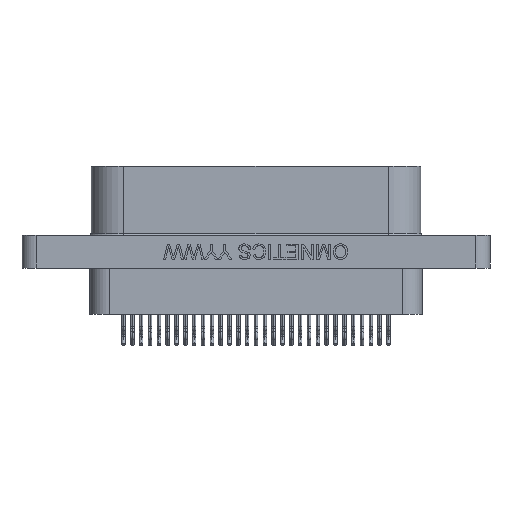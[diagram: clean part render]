
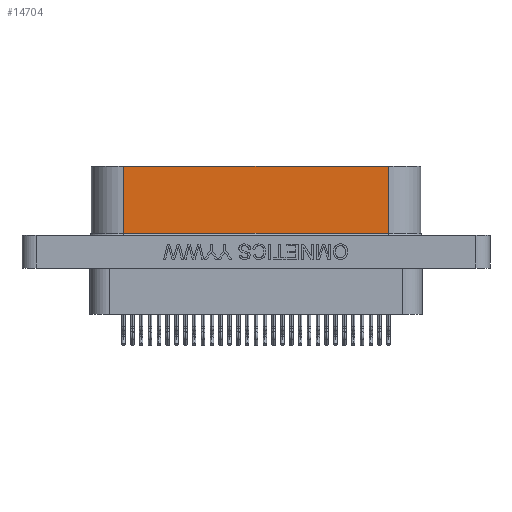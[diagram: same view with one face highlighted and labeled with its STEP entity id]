
A CAD part, front view. The second image highlights one B-rep face of the part: STEP entity #14704.
In plain terms, the highlighted planar face has unit normal (0, -1, 0).
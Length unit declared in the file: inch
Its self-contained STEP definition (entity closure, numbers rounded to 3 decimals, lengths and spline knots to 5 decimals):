
#5238 = CARTESIAN_POINT ( 'NONE',  ( 0.375, -0.1176, 0.235 ) ) ;
#5401 = ORIENTED_EDGE ( 'NONE', *, *, #11649, .T. ) ;
#5422 = DIRECTION ( 'NONE',  ( 0., 0., -1. ) ) ;
#7192 = LINE ( 'NONE', #37873, #26937 ) ;
#8122 = EDGE_CURVE ( 'NONE', #33470, #41523, #7192, .T. ) ;
#8419 = LINE ( 'NONE', #37025, #41875 ) ;
#9506 = CARTESIAN_POINT ( 'NONE',  ( -0.375, -0.1176, 0.045 ) ) ;
#11098 = DIRECTION ( 'NONE',  ( 1., 0., 0. ) ) ;
#11396 = CARTESIAN_POINT ( 'NONE',  ( 0.375, -0.1176, 0.045 ) ) ;
#11649 = EDGE_CURVE ( 'NONE', #24199, #30039, #22268, .T. ) ;
#14270 = ORIENTED_EDGE ( 'NONE', *, *, #19297, .F. ) ;
#14704 = ADVANCED_FACE ( 'NONE', ( #37621 ), #31175, .F. ) ;
#15103 = AXIS2_PLACEMENT_3D ( 'NONE', #29853, #29673, #29622 ) ;
#19297 = EDGE_CURVE ( 'NONE', #41523, #30039, #30254, .T. ) ;
#22172 = VECTOR ( 'NONE', #5422, 39.37008 ) ;
#22268 = LINE ( 'NONE', #11396, #30482 ) ;
#23832 = ORIENTED_EDGE ( 'NONE', *, *, #28333, .T. ) ;
#24199 = VERTEX_POINT ( 'NONE', #9506 ) ;
#24422 = CARTESIAN_POINT ( 'NONE',  ( 0.375, -0.1176, 0.235 ) ) ;
#24637 = EDGE_LOOP ( 'NONE', ( #23832, #5401, #14270, #24861 ) ) ;
#24861 = ORIENTED_EDGE ( 'NONE', *, *, #8122, .F. ) ;
#25139 = DIRECTION ( 'NONE',  ( 0., 0., -1. ) ) ;
#26937 = VECTOR ( 'NONE', #37554, 39.37008 ) ;
#27368 = CARTESIAN_POINT ( 'NONE',  ( -0.375, -0.1176, 0.235 ) ) ;
#28333 = EDGE_CURVE ( 'NONE', #33470, #24199, #8419, .T. ) ;
#29622 = DIRECTION ( 'NONE',  ( 0., 0., 1. ) ) ;
#29673 = DIRECTION ( 'NONE',  ( 0., 1., 0. ) ) ;
#29853 = CARTESIAN_POINT ( 'NONE',  ( -0.6225, -0.1176, 0.235 ) ) ;
#30039 = VERTEX_POINT ( 'NONE', #30980 ) ;
#30254 = LINE ( 'NONE', #5238, #22172 ) ;
#30482 = VECTOR ( 'NONE', #11098, 39.37008 ) ;
#30980 = CARTESIAN_POINT ( 'NONE',  ( 0.375, -0.1176, 0.045 ) ) ;
#31175 = PLANE ( 'NONE',  #15103 ) ;
#33470 = VERTEX_POINT ( 'NONE', #27368 ) ;
#37025 = CARTESIAN_POINT ( 'NONE',  ( -0.375, -0.1176, 0.235 ) ) ;
#37554 = DIRECTION ( 'NONE',  ( 1., 0., 0. ) ) ;
#37621 = FACE_OUTER_BOUND ( 'NONE', #24637, .T. ) ;
#37873 = CARTESIAN_POINT ( 'NONE',  ( -0.6225, -0.1176, 0.235 ) ) ;
#41523 = VERTEX_POINT ( 'NONE', #24422 ) ;
#41875 = VECTOR ( 'NONE', #25139, 39.37008 ) ;
